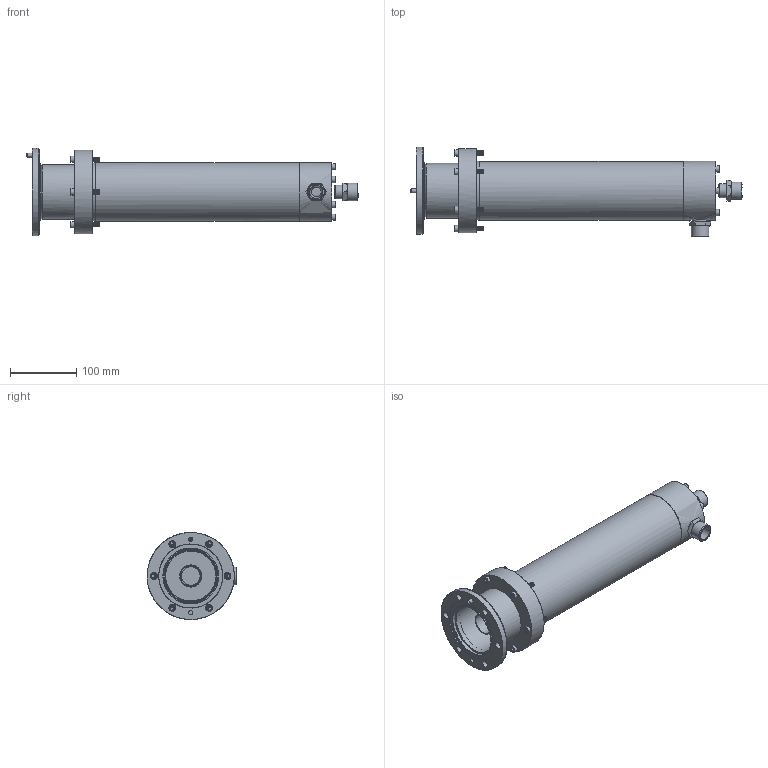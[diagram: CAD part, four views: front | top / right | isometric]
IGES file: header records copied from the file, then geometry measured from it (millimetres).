
Start section: C
Global section: file name: 8755_RevP_IGES.igs; native system: By Siemens PLM Incorporated; preprocessor: XPlus GENERIC/IGES 16.0.42; author: Author; organization: Title; date: 20140527.080134; units: millimetre
Bounding box: 502.07 x 135.52 x 131.76 mm (x, y, z)
Surface area: 257225.2 mm2 (no closed solid volume)
Topology: 0 solids, 0 shells, 500 faces, 5410 edges, 5410 vertices
Faces by surface type: bspline 500
